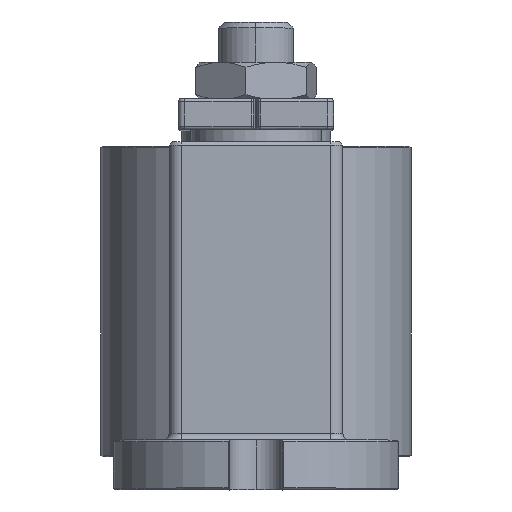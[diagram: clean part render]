
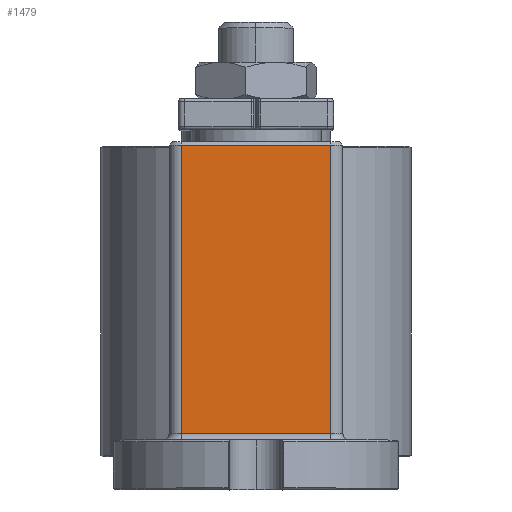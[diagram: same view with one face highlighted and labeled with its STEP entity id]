
A CAD part, top view. The second image highlights one B-rep face of the part: STEP entity #1479.
In plain terms, the highlighted planar face has unit normal (0, 0, 1).
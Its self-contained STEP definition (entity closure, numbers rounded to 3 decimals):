
#1479 = ADVANCED_FACE ( 'NONE', ( #7786 ), #5430, .F. ) ;
#2186 = CARTESIAN_POINT ( 'NONE',  ( -12., 9., 14. ) ) ;
#2285 = CARTESIAN_POINT ( 'NONE',  ( 12., 56., 14. ) ) ;
#2501 = CARTESIAN_POINT ( 'NONE',  ( -12., 55.5, 14. ) ) ;
#2571 = ORIENTED_EDGE ( 'NONE', *, *, #5379, .F. ) ;
#2735 = ORIENTED_EDGE ( 'NONE', *, *, #9488, .T. ) ;
#2802 = VERTEX_POINT ( 'NONE', #4020 ) ;
#2967 = LINE ( 'NONE', #5047, #5556 ) ;
#3070 = DIRECTION ( 'NONE',  ( 0., -1., 0. ) ) ;
#3977 = ORIENTED_EDGE ( 'NONE', *, *, #8105, .T. ) ;
#4020 = CARTESIAN_POINT ( 'NONE',  ( 12., 9., 14. ) ) ;
#4096 = VECTOR ( 'NONE', #6397, 1000. ) ;
#4316 = LINE ( 'NONE', #6016, #6541 ) ;
#4406 = DIRECTION ( 'NONE',  ( 1., 0., 0. ) ) ;
#4904 = DIRECTION ( 'NONE',  ( 0., -1., 0. ) ) ;
#5047 = CARTESIAN_POINT ( 'NONE',  ( -12., 56., 14. ) ) ;
#5293 = VERTEX_POINT ( 'NONE', #7694 ) ;
#5379 = EDGE_CURVE ( 'NONE', #5293, #2802, #8628, .T. ) ;
#5430 = PLANE ( 'NONE',  #8832 ) ;
#5454 = ORIENTED_EDGE ( 'NONE', *, *, #9456, .T. ) ;
#5556 = VECTOR ( 'NONE', #4904, 1000. ) ;
#6016 = CARTESIAN_POINT ( 'NONE',  ( -12., 9., 14. ) ) ;
#6081 = DIRECTION ( 'NONE',  ( 0., 0., -1. ) ) ;
#6213 = VERTEX_POINT ( 'NONE', #2501 ) ;
#6397 = DIRECTION ( 'NONE',  ( -1., 0., 0. ) ) ;
#6541 = VECTOR ( 'NONE', #4406, 1000. ) ;
#6558 = LINE ( 'NONE', #7970, #4096 ) ;
#6879 = DIRECTION ( 'NONE',  ( -1., 0., 0. ) ) ;
#7694 = CARTESIAN_POINT ( 'NONE',  ( 12., 55.5, 14. ) ) ;
#7786 = FACE_OUTER_BOUND ( 'NONE', #9758, .T. ) ;
#7970 = CARTESIAN_POINT ( 'NONE',  ( -12., 55.5, 14. ) ) ;
#8105 = EDGE_CURVE ( 'NONE', #5293, #6213, #6558, .T. ) ;
#8122 = VECTOR ( 'NONE', #3070, 1000. ) ;
#8628 = LINE ( 'NONE', #2285, #8122 ) ;
#8832 = AXIS2_PLACEMENT_3D ( 'NONE', #9994, #6081, #6879 ) ;
#9456 = EDGE_CURVE ( 'NONE', #6213, #10206, #2967, .T. ) ;
#9488 = EDGE_CURVE ( 'NONE', #10206, #2802, #4316, .T. ) ;
#9758 = EDGE_LOOP ( 'NONE', ( #5454, #2735, #2571, #3977 ) ) ;
#9994 = CARTESIAN_POINT ( 'NONE',  ( -12., 56., 14. ) ) ;
#10206 = VERTEX_POINT ( 'NONE', #2186 ) ;
